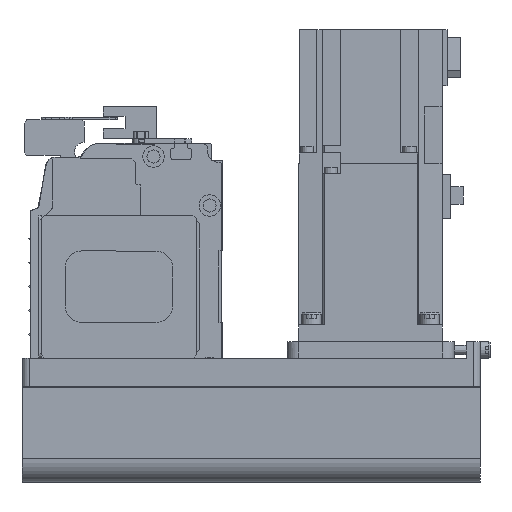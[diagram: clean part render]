
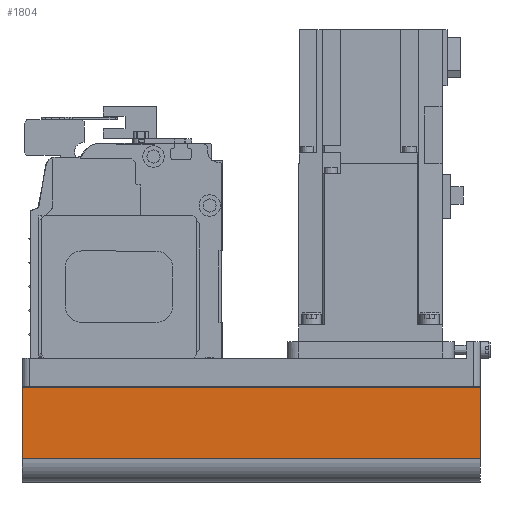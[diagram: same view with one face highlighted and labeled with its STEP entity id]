
A CAD part, left-side view. The second image highlights one B-rep face of the part: STEP entity #1804.
In plain terms, the highlighted planar face has unit normal (-1, 0, 0) as drawn and (0, 1, 0) by its records, which use the part's own axes.
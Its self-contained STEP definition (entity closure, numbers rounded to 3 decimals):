
#1804 = ADVANCED_FACE( '', ( #3961 ), #3962, .T. );
#3961 = FACE_OUTER_BOUND( '', #6497, .T. );
#3962 = PLANE( '', #6498 );
#6497 = EDGE_LOOP( '', ( #11389, #11390, #11391, #11392 ) );
#6498 = AXIS2_PLACEMENT_3D( '', #11393, #11394, #11395 );
#11389 = ORIENTED_EDGE( '', *, *, #16097, .F. );
#11390 = ORIENTED_EDGE( '', *, *, #16098, .F. );
#11391 = ORIENTED_EDGE( '', *, *, #15431, .T. );
#11392 = ORIENTED_EDGE( '', *, *, #14592, .T. );
#11393 = CARTESIAN_POINT( '', ( -192., 40., -42. ) );
#11394 = DIRECTION( '', ( 0., 1., 0. ) );
#11395 = DIRECTION( '', ( 0., 0., 1. ) );
#14592 = EDGE_CURVE( '', #17470, #17471, #17472, .T. );
#15431 = EDGE_CURVE( '', #18833, #17470, #18834, .T. );
#16097 = EDGE_CURVE( '', #19776, #17471, #19777, .T. );
#16098 = EDGE_CURVE( '', #18833, #19776, #19778, .T. );
#17470 = VERTEX_POINT( '', #21481 );
#17471 = VERTEX_POINT( '', #21482 );
#17472 = LINE( '', #21483, #21484 );
#18833 = VERTEX_POINT( '', #23328 );
#18834 = LINE( '', #23329, #23330 );
#19776 = VERTEX_POINT( '', #24583 );
#19777 = LINE( '', #24584, #24585 );
#19778 = LINE( '', #24586, #24587 );
#21481 = CARTESIAN_POINT( '', ( -192., 40., -12.1 ) );
#21482 = CARTESIAN_POINT( '', ( 0., 40., -12.1 ) );
#21483 = CARTESIAN_POINT( '', ( -192., 40., -12.1 ) );
#21484 = VECTOR( '', #26065, 1000. );
#23328 = CARTESIAN_POINT( '', ( -192., 40., -42. ) );
#23329 = CARTESIAN_POINT( '', ( -192., 40., -42. ) );
#23330 = VECTOR( '', #27101, 1000. );
#24583 = CARTESIAN_POINT( '', ( 0., 40., -42. ) );
#24584 = CARTESIAN_POINT( '', ( 0., 40., -42. ) );
#24585 = VECTOR( '', #27875, 1000. );
#24586 = CARTESIAN_POINT( '', ( -192., 40., -42. ) );
#24587 = VECTOR( '', #27876, 1000. );
#26065 = DIRECTION( '', ( 1., 0., 0. ) );
#27101 = DIRECTION( '', ( 0., 0., 1. ) );
#27875 = DIRECTION( '', ( 0., 0., 1. ) );
#27876 = DIRECTION( '', ( 1., 0., 0. ) );
